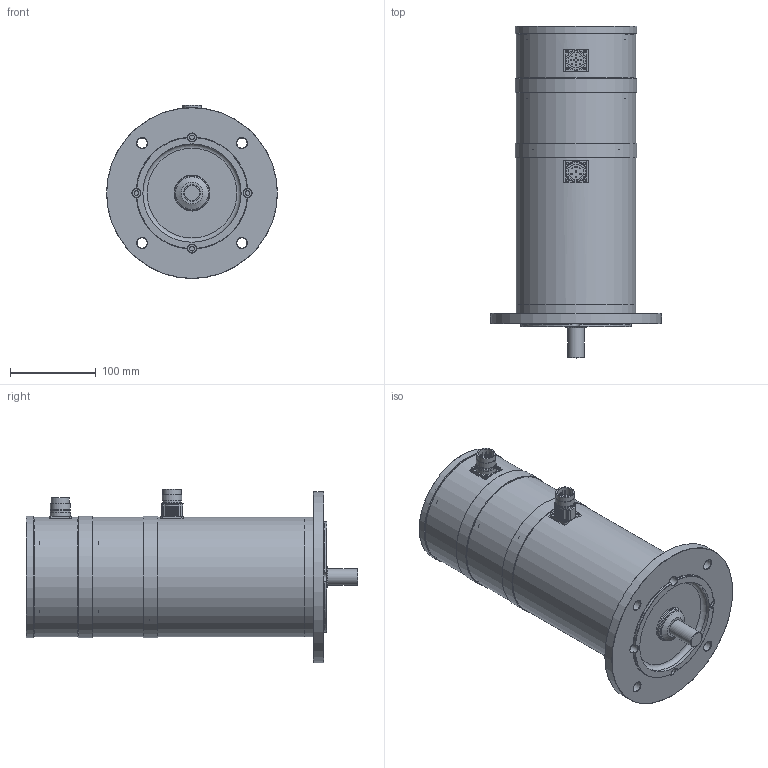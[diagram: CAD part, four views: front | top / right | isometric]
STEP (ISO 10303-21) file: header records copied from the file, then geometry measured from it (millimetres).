
FILE_DESCRIPTION(/* description */ (''),/* implementation_level */ '2;1');
FILE_NAME(/* name */ 'ksa_6x8e_mc_ixx',/* time_stamp */ '2007-03-13T16:23:12+01:00',/* author */ (''),/* organization */ (''),/* preprocessor_version */ 'ST-DEVELOPER v8',/* originating_system */ 'UNIGRAPHICS SOLUTIONS - UNIGRAPHICS 18.0',/* authorisation */ '');
FILE_SCHEMA (('AUTOMOTIVE_DESIGN { 1 2 10303 214 0 1 1 1 }'));
Length unit declared in the file: millimetre
Products named in the file (13): 014261_0; 014260_0; 064258_0; 089259_0; 064303_0; 089260_0; 116160_0; 06331301_0; DIN3760_org_A20x32x7_0; Rotor_SA 64.. E_0; Gehaeuse SA 64.. E_0; 116155_0; KSA648_E-MC-I27_0
Assembly tree (12 placements, depth 2):
  KSA648_E-MC-I27_0
    116155_0
    Gehaeuse SA 64.. E_0
    Rotor_SA 64.. E_0
    DIN3760_org_A20x32x7_0
    06331301_0
    116160_0
    089260_0
    064303_0
    089259_0
    064258_0
    014260_0
    014261_0
Bounding box: 200 x 388 x 202.5 mm (x, y, z)
Volume: 2232860.5 mm3; surface area: 514482.7 mm2
Topology: 12 solids, 12 shells, 505 faces, 1274 edges, 818 vertices
Faces by surface type: cylinder 233, plane 117, cone 110, torus 24, sphere 20, bspline 1
Full cylindrical faces by diameter (mm): 1 x16, 2 x4, 2.135 x4, 2.7 x8, 3.013 x4, 4.3 x4, 4.351 x12, 5.5 x20, 7 x1, 8.5 x4, 10 x20, 12 x4, 18 x2, 18.52 x1, 18.9 x1, 19 x1, 20 x6, 20.3 x1, 21 x3, 21.5 x2, 23 x4, 24 x2, 26 x1, 29 x1, 32 x2, 38 x1, 40 x3, 47 x2, 70 x1, 105 x1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
Entity records: 13401 total; most frequent: CARTESIAN_POINT 2559, DIRECTION 2386, ORIENTED_EDGE 1596, AXIS2_PLACEMENT_3D 1126, EDGE_LOOP 952, EDGE_CURVE 798, VERTEX_POINT 680, FACE_BOUND 643
